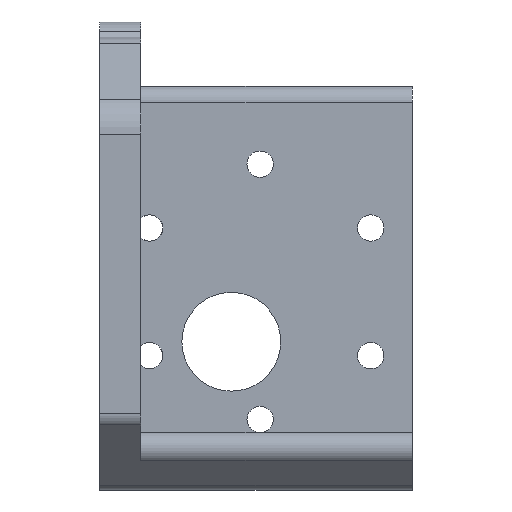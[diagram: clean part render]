
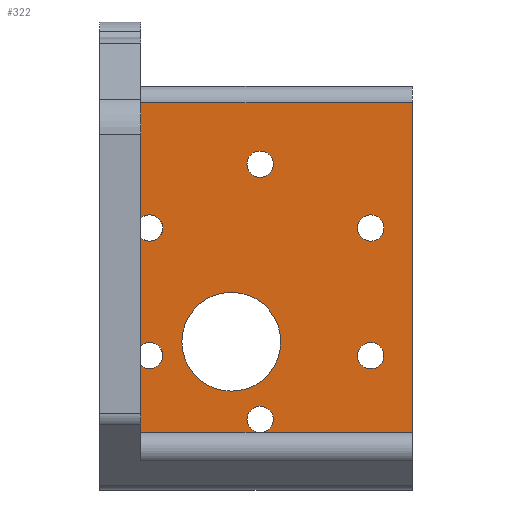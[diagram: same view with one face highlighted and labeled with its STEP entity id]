
A CAD part, left-side view. The second image highlights one B-rep face of the part: STEP entity #322.
In plain terms, the highlighted planar face has unit normal (-1, 0, 0).
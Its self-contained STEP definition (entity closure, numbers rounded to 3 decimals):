
#322=ADVANCED_FACE('',(#623,#624,#625,#626,#466),#1570,.T.);
#466=FACE_OUTER_BOUND('',#675,.F.);
#623=FACE_BOUND('',#671,.F.);
#624=FACE_BOUND('',#672,.F.);
#625=FACE_BOUND('',#673,.F.);
#626=FACE_BOUND('',#674,.F.);
#671=EDGE_LOOP('',(#921,#922));
#672=EDGE_LOOP('',(#923,#924));
#673=EDGE_LOOP('',(#925,#926));
#674=EDGE_LOOP('',(#927,#928));
#675=EDGE_LOOP('',(#929,#930,#931,#932,#933,#934,#935,#936,#937,#938,#939,
#940,#941,#942,#943));
#921=ORIENTED_EDGE('',*,*,#3019,.F.);
#922=ORIENTED_EDGE('',*,*,#3020,.F.);
#923=ORIENTED_EDGE('',*,*,#3015,.F.);
#924=ORIENTED_EDGE('',*,*,#3016,.F.);
#925=ORIENTED_EDGE('',*,*,#3017,.F.);
#926=ORIENTED_EDGE('',*,*,#3018,.F.);
#927=ORIENTED_EDGE('',*,*,#3025,.F.);
#928=ORIENTED_EDGE('',*,*,#3026,.F.);
#929=ORIENTED_EDGE('',*,*,#3013,.F.);
#930=ORIENTED_EDGE('',*,*,#3027,.F.);
#931=ORIENTED_EDGE('',*,*,#3029,.F.);
#932=ORIENTED_EDGE('',*,*,#3028,.F.);
#933=ORIENTED_EDGE('',*,*,#3014,.F.);
#934=ORIENTED_EDGE('',*,*,#3009,.F.);
#935=ORIENTED_EDGE('',*,*,#3023,.F.);
#936=ORIENTED_EDGE('',*,*,#3024,.F.);
#937=ORIENTED_EDGE('',*,*,#3010,.F.);
#938=ORIENTED_EDGE('',*,*,#3021,.F.);
#939=ORIENTED_EDGE('',*,*,#3022,.F.);
#940=ORIENTED_EDGE('',*,*,#3011,.F.);
#941=ORIENTED_EDGE('',*,*,#3012,.F.);
#942=ORIENTED_EDGE('',*,*,#3005,.F.);
#943=ORIENTED_EDGE('',*,*,#2916,.F.);
#1570=PLANE('',#3795);
#2547=LINE('',#5071,#2722);
#2574=LINE('',#5160,#2749);
#2578=LINE('',#5164,#2753);
#2579=LINE('',#5165,#2754);
#2580=LINE('',#5166,#2755);
#2581=LINE('',#5167,#2756);
#2582=LINE('',#5168,#2757);
#2583=LINE('',#5169,#2758);
#2722=VECTOR('',#4068,40.);
#2749=VECTOR('',#4219,33.);
#2753=VECTOR('',#4223,8.129);
#2754=VECTOR('',#4224,13.133);
#2755=VECTOR('',#4225,10.004);
#2756=VECTOR('',#4226,4.);
#2757=VECTOR('',#4227,18.154);
#2758=VECTOR('',#4228,14.154);
#2916=EDGE_CURVE('',#3566,#3594,#2547,.T.);
#3005=EDGE_CURVE('',#3594,#3482,#2574,.T.);
#3009=EDGE_CURVE('',#3481,#3480,#2578,.T.);
#3010=EDGE_CURVE('',#3479,#3478,#2579,.T.);
#3011=EDGE_CURVE('',#3573,#3477,#2580,.T.);
#3012=EDGE_CURVE('',#3482,#3573,#2581,.T.);
#3013=EDGE_CURVE('',#3476,#3566,#2582,.T.);
#3014=EDGE_CURVE('',#3480,#3475,#2583,.T.);
#3015=EDGE_CURVE('',#3474,#3473,#3331,.T.);
#3016=EDGE_CURVE('',#3473,#3474,#3332,.T.);
#3017=EDGE_CURVE('',#3472,#3471,#3333,.T.);
#3018=EDGE_CURVE('',#3471,#3472,#3334,.T.);
#3019=EDGE_CURVE('',#3470,#3469,#3335,.T.);
#3020=EDGE_CURVE('',#3469,#3470,#3336,.T.);
#3021=EDGE_CURVE('',#3468,#3479,#3337,.T.);
#3022=EDGE_CURVE('',#3477,#3468,#3338,.T.);
#3023=EDGE_CURVE('',#3467,#3481,#3339,.T.);
#3024=EDGE_CURVE('',#3478,#3467,#3340,.T.);
#3025=EDGE_CURVE('',#3466,#3465,#3341,.T.);
#3026=EDGE_CURVE('',#3465,#3466,#3342,.T.);
#3027=EDGE_CURVE('',#3464,#3476,#3343,.T.);
#3028=EDGE_CURVE('',#3475,#3463,#3344,.T.);
#3029=EDGE_CURVE('',#3463,#3464,#3345,.T.);
#3331=CIRCLE('',#3753,6.);
#3332=CIRCLE('',#3754,6.);
#3333=CIRCLE('',#3755,1.6);
#3334=CIRCLE('',#3756,1.6);
#3335=CIRCLE('',#3757,1.6);
#3336=CIRCLE('',#3758,1.6);
#3337=CIRCLE('',#3759,1.6);
#3338=CIRCLE('',#3760,1.6);
#3339=CIRCLE('',#3761,1.6);
#3340=CIRCLE('',#3762,1.6);
#3341=CIRCLE('',#3763,1.6);
#3342=CIRCLE('',#3764,1.6);
#3343=CIRCLE('',#3765,1.6);
#3344=CIRCLE('',#3766,1.6);
#3345=CIRCLE('',#3767,1.6);
#3463=VERTEX_POINT('',#4905);
#3464=VERTEX_POINT('',#4906);
#3465=VERTEX_POINT('',#4907);
#3466=VERTEX_POINT('',#4908);
#3467=VERTEX_POINT('',#4909);
#3468=VERTEX_POINT('',#4910);
#3469=VERTEX_POINT('',#4911);
#3470=VERTEX_POINT('',#4912);
#3471=VERTEX_POINT('',#4913);
#3472=VERTEX_POINT('',#4914);
#3473=VERTEX_POINT('',#4915);
#3474=VERTEX_POINT('',#4916);
#3475=VERTEX_POINT('',#4917);
#3476=VERTEX_POINT('',#4918);
#3477=VERTEX_POINT('',#4919);
#3478=VERTEX_POINT('',#4920);
#3479=VERTEX_POINT('',#4921);
#3480=VERTEX_POINT('',#4922);
#3481=VERTEX_POINT('',#4923);
#3482=VERTEX_POINT('',#4924);
#3566=VERTEX_POINT('',#5008);
#3573=VERTEX_POINT('',#5015);
#3594=VERTEX_POINT('',#5036);
#3753=AXIS2_PLACEMENT_3D('',#5170,#4229,#4230);
#3754=AXIS2_PLACEMENT_3D('',#5171,#4231,#4232);
#3755=AXIS2_PLACEMENT_3D('',#5172,#4233,#4234);
#3756=AXIS2_PLACEMENT_3D('',#5173,#4235,#4236);
#3757=AXIS2_PLACEMENT_3D('',#5174,#4237,#4238);
#3758=AXIS2_PLACEMENT_3D('',#5175,#4239,#4240);
#3759=AXIS2_PLACEMENT_3D('',#5176,#4241,#4242);
#3760=AXIS2_PLACEMENT_3D('',#5177,#4243,#4244);
#3761=AXIS2_PLACEMENT_3D('',#5178,#4245,#4246);
#3762=AXIS2_PLACEMENT_3D('',#5179,#4247,#4248);
#3763=AXIS2_PLACEMENT_3D('',#5180,#4249,#4250);
#3764=AXIS2_PLACEMENT_3D('',#5181,#4251,#4252);
#3765=AXIS2_PLACEMENT_3D('',#5182,#4253,#4254);
#3766=AXIS2_PLACEMENT_3D('',#5183,#4255,#4256);
#3767=AXIS2_PLACEMENT_3D('',#5184,#4257,#4258);
#3795=AXIS2_PLACEMENT_3D('',#5284,#4385,#4386);
#4068=DIRECTION('',(0.,0.,1.));
#4219=DIRECTION('',(0.,1.,0.));
#4223=DIRECTION('',(0.,0.,-1.));
#4224=DIRECTION('',(0.,0.,-1.));
#4225=DIRECTION('',(0.,0.,-1.));
#4226=DIRECTION('',(0.,0.,-1.));
#4227=DIRECTION('',(0.,-1.,0.));
#4228=DIRECTION('',(0.,-1.,0.));
#4229=DIRECTION('',(1.,0.,0.));
#4230=DIRECTION('',(0.,-1.,0.));
#4231=DIRECTION('',(1.,0.,0.));
#4232=DIRECTION('',(0.,1.,0.));
#4233=DIRECTION('',(1.,0.,0.));
#4234=DIRECTION('',(0.,-1.,0.));
#4235=DIRECTION('',(1.,0.,0.));
#4236=DIRECTION('',(0.,1.,0.));
#4237=DIRECTION('',(1.,0.,0.));
#4238=DIRECTION('',(0.,-1.,0.));
#4239=DIRECTION('',(1.,0.,0.));
#4240=DIRECTION('',(0.,1.,0.));
#4241=DIRECTION('',(1.,0.,0.));
#4242=DIRECTION('',(0.,-1.,0.));
#4243=DIRECTION('',(1.,0.,0.));
#4244=DIRECTION('',(0.,0.673,0.74));
#4245=DIRECTION('',(1.,0.,0.));
#4246=DIRECTION('',(0.,-1.,0.));
#4247=DIRECTION('',(1.,0.,0.));
#4248=DIRECTION('',(0.,0.673,0.74));
#4249=DIRECTION('',(1.,0.,0.));
#4250=DIRECTION('',(0.,-1.,0.));
#4251=DIRECTION('',(1.,0.,0.));
#4252=DIRECTION('',(0.,1.,0.));
#4253=DIRECTION('',(1.,0.,0.));
#4254=DIRECTION('',(0.,-1.,0.));
#4255=DIRECTION('',(1.,0.,0.));
#4256=DIRECTION('',(0.,0.216,-0.976));
#4257=DIRECTION('',(1.,0.,0.));
#4258=DIRECTION('',(0.,1.,0.));
#4385=DIRECTION('',(-1.,0.,0.));
#4386=DIRECTION('',(0.,0.,1.));
#4905=CARTESIAN_POINT('',(996.154,531.131,155.151));
#4906=CARTESIAN_POINT('',(996.154,527.931,155.151));
#4907=CARTESIAN_POINT('',(996.154,517.708,162.901));
#4908=CARTESIAN_POINT('',(996.154,514.508,162.901));
#4909=CARTESIAN_POINT('',(996.154,541.354,162.901));
#4910=CARTESIAN_POINT('',(996.154,541.354,178.401));
#4911=CARTESIAN_POINT('',(996.154,531.131,186.151));
#4912=CARTESIAN_POINT('',(996.154,527.931,186.151));
#4913=CARTESIAN_POINT('',(996.154,517.708,178.401));
#4914=CARTESIAN_POINT('',(996.154,514.508,178.401));
#4915=CARTESIAN_POINT('',(996.154,539.031,164.589));
#4916=CARTESIAN_POINT('',(996.154,527.031,164.589));
#4917=CARTESIAN_POINT('',(996.154,529.877,153.589));
#4918=CARTESIAN_POINT('',(996.154,529.185,153.589));
#4919=CARTESIAN_POINT('',(996.154,544.031,179.584));
#4920=CARTESIAN_POINT('',(996.154,544.031,164.084));
#4921=CARTESIAN_POINT('',(996.154,544.031,177.217));
#4922=CARTESIAN_POINT('',(996.154,544.031,153.589));
#4923=CARTESIAN_POINT('',(996.154,544.031,161.717));
#4924=CARTESIAN_POINT('',(996.154,544.031,193.589));
#5008=CARTESIAN_POINT('',(996.154,511.031,153.589));
#5015=CARTESIAN_POINT('',(996.154,544.031,189.589));
#5036=CARTESIAN_POINT('',(996.154,511.031,193.589));
#5071=CARTESIAN_POINT('',(996.154,511.031,153.589));
#5160=CARTESIAN_POINT('',(996.154,511.031,193.589));
#5164=CARTESIAN_POINT('',(996.154,544.031,161.717));
#5165=CARTESIAN_POINT('',(996.154,544.031,177.217));
#5166=CARTESIAN_POINT('',(996.154,544.031,189.589));
#5167=CARTESIAN_POINT('',(996.154,544.031,193.589));
#5168=CARTESIAN_POINT('',(996.154,529.185,153.589));
#5169=CARTESIAN_POINT('',(996.154,544.031,153.589));
#5170=CARTESIAN_POINT('',(996.154,533.031,164.589));
#5171=CARTESIAN_POINT('',(996.154,533.031,164.589));
#5172=CARTESIAN_POINT('',(996.154,516.108,178.401));
#5173=CARTESIAN_POINT('',(996.154,516.108,178.401));
#5174=CARTESIAN_POINT('',(996.154,529.531,186.151));
#5175=CARTESIAN_POINT('',(996.154,529.531,186.151));
#5176=CARTESIAN_POINT('',(996.154,542.954,178.401));
#5177=CARTESIAN_POINT('',(996.154,542.954,178.401));
#5178=CARTESIAN_POINT('',(996.154,542.954,162.901));
#5179=CARTESIAN_POINT('',(996.154,542.954,162.901));
#5180=CARTESIAN_POINT('',(996.154,516.108,162.901));
#5181=CARTESIAN_POINT('',(996.154,516.108,162.901));
#5182=CARTESIAN_POINT('',(996.154,529.531,155.151));
#5183=CARTESIAN_POINT('',(996.154,529.531,155.151));
#5184=CARTESIAN_POINT('',(996.154,529.531,155.151));
#5284=CARTESIAN_POINT('',(996.154,544.581,153.039));
